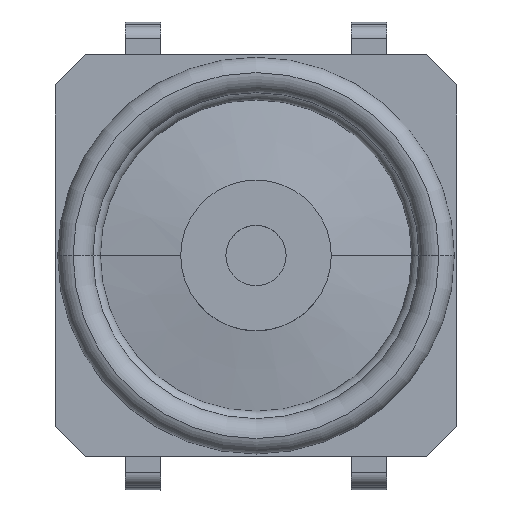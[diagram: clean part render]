
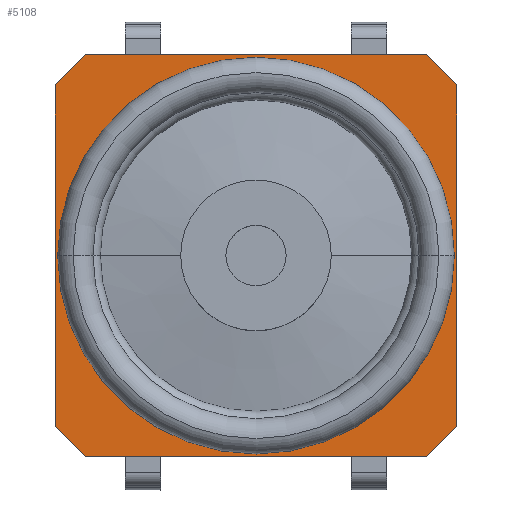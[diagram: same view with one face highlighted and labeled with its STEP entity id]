
A CAD part, top view. The second image highlights one B-rep face of the part: STEP entity #5108.
In plain terms, the highlighted planar face has unit normal (0, 0, 1).
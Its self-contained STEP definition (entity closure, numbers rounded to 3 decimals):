
#121=DIRECTION('',(1.,0.,0.));
#122=VECTOR('',#121,6.8);
#123=CARTESIAN_POINT('',(-3.4,4.,1.9));
#124=LINE('',#123,#122);
#621=DIRECTION('',(-1.,0.,0.));
#622=VECTOR('',#621,6.8);
#623=CARTESIAN_POINT('',(3.4,-4.,1.9));
#624=LINE('',#623,#622);
#1113=DIRECTION('',(0.,-1.,0.));
#1114=VECTOR('',#1113,6.8);
#1115=CARTESIAN_POINT('',(4.,3.4,1.9));
#1116=LINE('',#1115,#1114);
#1121=DIRECTION('',(0.707,0.707,0.));
#1122=VECTOR('',#1121,0.849);
#1123=CARTESIAN_POINT('',(3.4,-4.,1.9));
#1124=LINE('',#1123,#1122);
#1125=DIRECTION('',(0.707,-0.707,0.));
#1126=VECTOR('',#1125,0.849);
#1127=CARTESIAN_POINT('',(-4.,-3.4,1.9));
#1128=LINE('',#1127,#1126);
#1129=DIRECTION('',(-0.707,-0.707,0.));
#1130=VECTOR('',#1129,0.849);
#1131=CARTESIAN_POINT('',(-3.4,4.,1.9));
#1132=LINE('',#1131,#1130);
#1133=DIRECTION('',(-0.707,0.707,0.));
#1134=VECTOR('',#1133,0.849);
#1135=CARTESIAN_POINT('',(4.,3.4,1.9));
#1136=LINE('',#1135,#1134);
#1137=CARTESIAN_POINT('',(0.,0.,1.9));
#1138=DIRECTION('',(0.,0.,-1.));
#1139=DIRECTION('',(1.,0.,0.));
#1140=AXIS2_PLACEMENT_3D('',#1137,#1138,#1139);
#1142=CARTESIAN_POINT('',(0.,0.,1.9));
#1143=DIRECTION('',(0.,0.,-1.));
#1144=DIRECTION('',(-1.,0.,0.));
#1145=AXIS2_PLACEMENT_3D('',#1142,#1143,#1144);
#1191=DIRECTION('',(0.,1.,0.));
#1192=VECTOR('',#1191,6.8);
#1193=CARTESIAN_POINT('',(-4.,-3.4,1.9));
#1194=LINE('',#1193,#1192);
#2628=CARTESIAN_POINT('',(3.95,0.,1.9));
#2629=CARTESIAN_POINT('',(-3.95,0.,1.9));
#2630=VERTEX_POINT('',#2628);
#2631=VERTEX_POINT('',#2629);
#2632=CARTESIAN_POINT('',(3.4,-4.,1.9));
#2633=CARTESIAN_POINT('',(4.,-3.4,1.9));
#2634=VERTEX_POINT('',#2632);
#2635=VERTEX_POINT('',#2633);
#2636=CARTESIAN_POINT('',(-3.4,-4.,1.9));
#2637=VERTEX_POINT('',#2636);
#2638=CARTESIAN_POINT('',(-4.,-3.4,1.9));
#2639=VERTEX_POINT('',#2638);
#2640=CARTESIAN_POINT('',(-4.,3.4,1.9));
#2641=VERTEX_POINT('',#2640);
#2642=CARTESIAN_POINT('',(-3.4,4.,1.9));
#2643=VERTEX_POINT('',#2642);
#2644=CARTESIAN_POINT('',(3.4,4.,1.9));
#2645=VERTEX_POINT('',#2644);
#2646=CARTESIAN_POINT('',(4.,3.4,1.9));
#2647=VERTEX_POINT('',#2646);
#5082=CARTESIAN_POINT('',(0.,0.,1.9));
#5083=DIRECTION('',(0.,0.,1.));
#5084=DIRECTION('',(0.,-1.,0.));
#5085=AXIS2_PLACEMENT_3D('',#5082,#5083,#5084);
#5086=PLANE('',#5085);
#5088=ORIENTED_EDGE('',*,*,#5087,.F.);
#5089=ORIENTED_EDGE('',*,*,#3980,.T.);
#5091=ORIENTED_EDGE('',*,*,#5090,.F.);
#5093=ORIENTED_EDGE('',*,*,#5092,.T.);
#5095=ORIENTED_EDGE('',*,*,#5094,.F.);
#5096=ORIENTED_EDGE('',*,*,#3062,.T.);
#5098=ORIENTED_EDGE('',*,*,#5097,.F.);
#5099=ORIENTED_EDGE('',*,*,#5058,.T.);
#5100=EDGE_LOOP('',(#5088,#5089,#5091,#5093,#5095,#5096,#5098,#5099));
#5101=FACE_OUTER_BOUND('',#5100,.F.);
#5103=ORIENTED_EDGE('',*,*,#5102,.F.);
#5105=ORIENTED_EDGE('',*,*,#5104,.F.);
#5106=EDGE_LOOP('',(#5103,#5105));
#5107=FACE_BOUND('',#5106,.F.);
#1141=CIRCLE('',#1140,3.95);
#1146=CIRCLE('',#1145,3.95);
#3062=EDGE_CURVE('',#2643,#2645,#124,.T.);
#3980=EDGE_CURVE('',#2634,#2637,#624,.T.);
#5058=EDGE_CURVE('',#2647,#2635,#1116,.T.);
#5087=EDGE_CURVE('',#2634,#2635,#1124,.T.);
#5090=EDGE_CURVE('',#2639,#2637,#1128,.T.);
#5092=EDGE_CURVE('',#2639,#2641,#1194,.T.);
#5094=EDGE_CURVE('',#2643,#2641,#1132,.T.);
#5097=EDGE_CURVE('',#2647,#2645,#1136,.T.);
#5102=EDGE_CURVE('',#2630,#2631,#1141,.T.);
#5104=EDGE_CURVE('',#2631,#2630,#1146,.T.);
#5108=ADVANCED_FACE('',(#5101,#5107),#5086,.T.);
